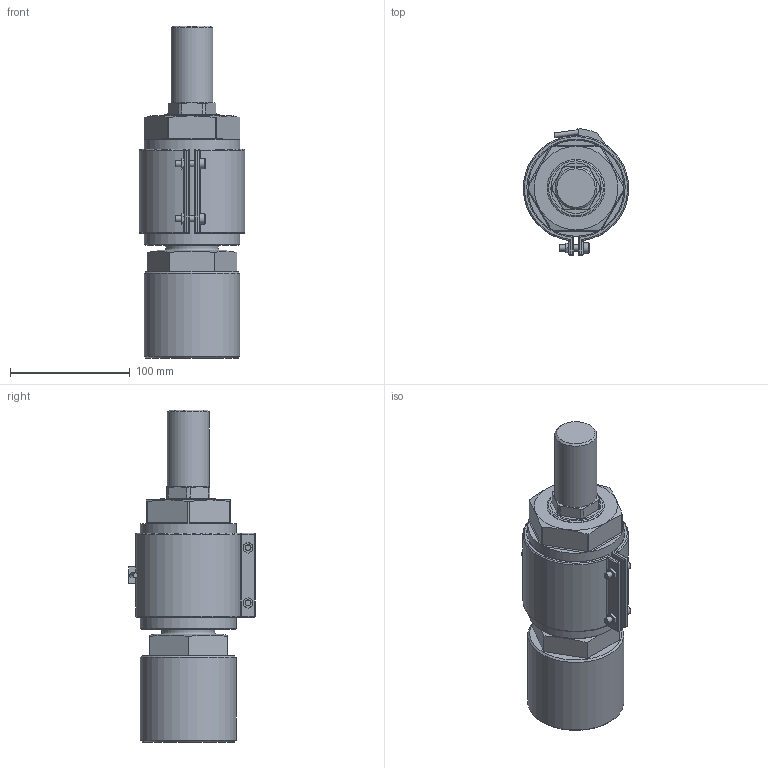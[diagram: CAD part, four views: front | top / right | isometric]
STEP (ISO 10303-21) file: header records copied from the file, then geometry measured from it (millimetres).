
FILE_DESCRIPTION(('STEP AP214'),'1');
FILE_NAME('FF1000SL.stp','2018-06-15T11:40:59',(' '),(' '),'Spatial InterOp 3D',' ',' ');
FILE_SCHEMA(('AUTOMOTIVE_DESIGN { 1 0 10303 214 1 1 1 1 }'));
Length unit declared in the file: millimetre
Products named in the file (1): 1
Bounding box: 87.89 x 105.88 x 276.89 mm (x, y, z)
Volume: 1122786.2 mm3; surface area: 150696.2 mm2
Topology: 9 solids, 9 shells, 211 faces, 498 edges, 311 vertices
Faces by surface type: plane 110, cylinder 56, cone 24, revolution 9, torus 8, bspline 4
Full cylindrical faces by diameter (mm): 4 x1, 4.2 x2, 5 x2, 5.5 x4, 8.5 x2, 33 x2, 35 x1, 44 x1, 45.4 x2, 48 x2, 80 x2
Entity records: 8639 total; most frequent: CARTESIAN_POINT 2388, DIRECTION 934, ORIENTED_EDGE 852, EDGE_CURVE 426, AXIS2_PLACEMENT_3D 350, VERTEX_POINT 295, EDGE_LOOP 287, FACE_OUTER_BOUND 239
